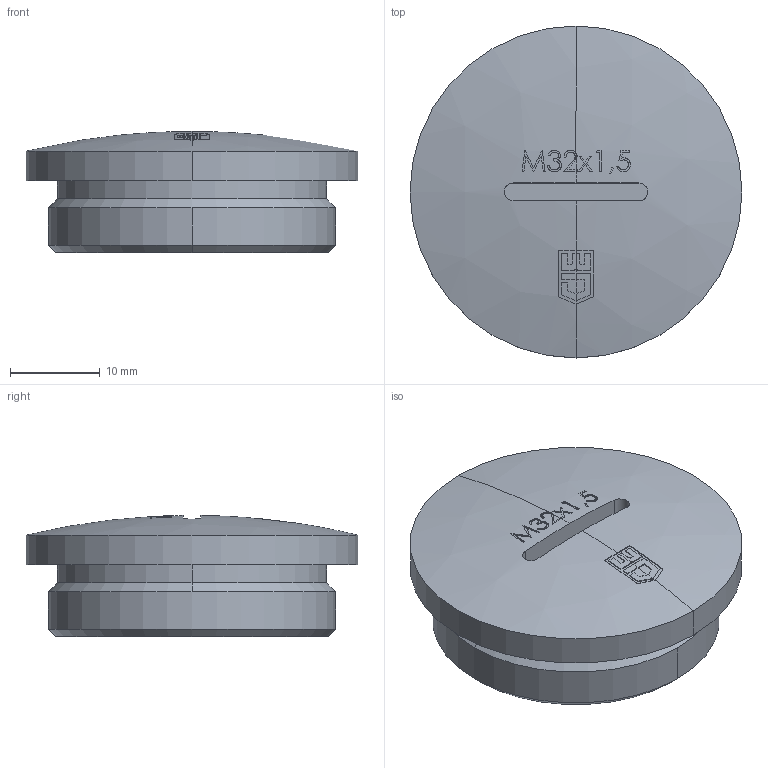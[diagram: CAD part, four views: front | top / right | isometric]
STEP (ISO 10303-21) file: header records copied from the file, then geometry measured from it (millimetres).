
FILE_DESCRIPTION (( 'STEP AP203' ), '1' );
FILE_NAME ('10.3215 PA.STEP', '2005-11-30T08:57:39', ( ' ' ), ( '' ), 'SwSTEP 2.0', 'SolidWorks 2005278', '' );
FILE_SCHEMA (( 'CONFIG_CONTROL_DESIGN' ));
Length unit declared in the file: millimetre
Products named in the file (1): 10.3215 PA
Bounding box: 37 x 37 x 13.49 mm (x, y, z)
Volume: 5603 mm3; surface area: 4420.6 mm2
Topology: 1 solids, 1 shells, 160 faces, 434 edges, 284 vertices
Faces by surface type: plane 92, bspline 28, sphere 22, cylinder 14, cone 4
Entity records: 7559 total; most frequent: CARTESIAN_POINT 3521, ORIENTED_EDGE 868, DIRECTION 808, EDGE_CURVE 434, AXIS2_PLACEMENT_3D 335, VERTEX_POINT 284, CIRCLE 202, EDGE_LOOP 168
